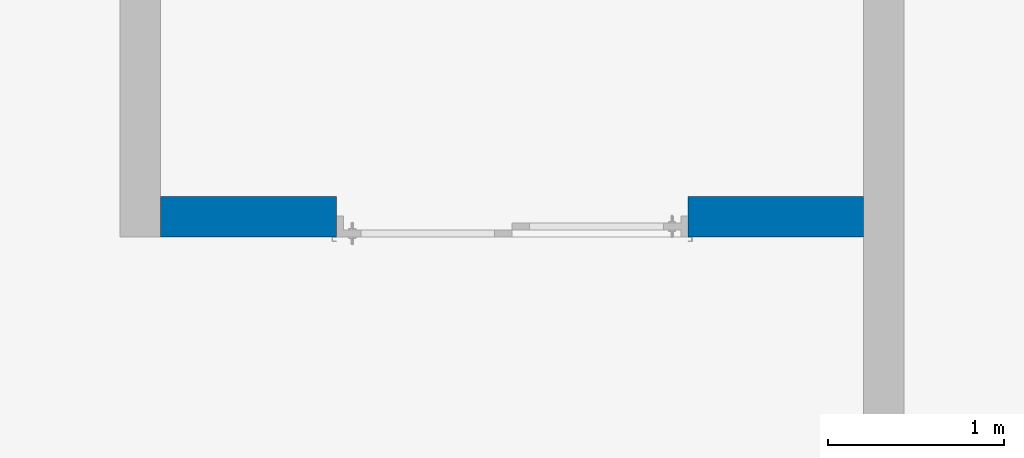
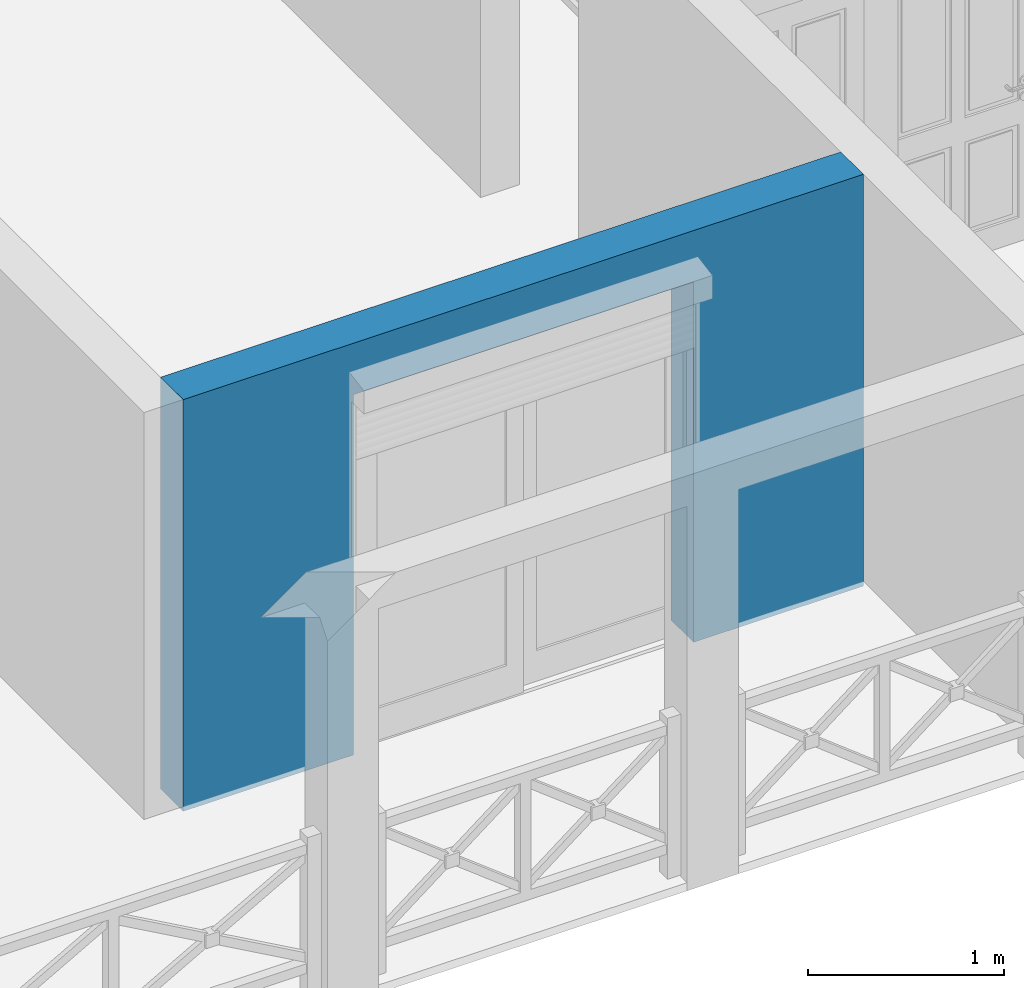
# One storey, part 8 of 17: 1 wall, 1 opening.
"""IFC2X3 building model written with IfcOpenShell, lengths in metres."""

from ifc_helpers import new_model, entity, si_unit, converted_unit, derived_unit, money_unit, direction, frame, origin_with_axes, origin_2d_with_axis, place, context, subcontext, project, spatial, polyline, rectangle, outline, extrude, boolean, faceted_brep, material, type_object, element, save


model = new_model("IFC2X3")

# Units and contexts
model_context = context("Model", 3, precision=1e-05, world=origin_with_axes(), true_north=direction((0.0, 1.0)))
body_context = subcontext(model_context, "Body", "Model", "MODEL_VIEW")
ifc_project = project(units=[si_unit("LENGTHUNIT", "METRE"), si_unit("AREAUNIT", "SQUARE_METRE"), si_unit("VOLUMEUNIT", "CUBIC_METRE"), converted_unit("PLANEANGLEUNIT", "DEGREE", entity("IfcPlaneAngleMeasure", 0.0174532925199), si_unit("PLANEANGLEUNIT", "RADIAN"), dimensions=[0, 0, 0, 0, 0, 0, 0]), si_unit("SOLIDANGLEUNIT", "STERADIAN"), money_unit("CHF"), converted_unit("TIMEUNIT", "Year", entity("IfcTimeMeasure", 31556926.0), si_unit("TIMEUNIT", "SECOND"), dimensions=[0, 0, 1, 0, 0, 0, 0]), si_unit("MASSUNIT", "GRAM", prefix="KILO"), si_unit("THERMODYNAMICTEMPERATUREUNIT", "DEGREE_CELSIUS"), si_unit("LUMINOUSINTENSITYUNIT", "LUMEN"), si_unit("ENERGYUNIT", "JOULE", prefix="MEGA"), derived_unit("THERMALCONDUCTANCEUNIT", [(si_unit("POWERUNIT", "WATT"), 1), (si_unit("LENGTHUNIT", "METRE"), -1), (si_unit("THERMODYNAMICTEMPERATUREUNIT", "KELVIN"), -1)]), derived_unit("SPECIFICHEATCAPACITYUNIT", [(si_unit("ENERGYUNIT", "JOULE"), 1), (si_unit("MASSUNIT", "GRAM", prefix="KILO"), -1), (si_unit("THERMODYNAMICTEMPERATUREUNIT", "KELVIN"), -1)]), derived_unit("MASSDENSITYUNIT", [(si_unit("MASSUNIT", "GRAM", prefix="KILO"), 1), (si_unit("VOLUMEUNIT", "CUBIC_METRE"), -1)])], contexts=[model_context])

# Site, building, storey
site_placement = place(None, origin_with_axes())
site = spatial("IfcSite", under=ifc_project, at=site_placement, Name="Site", CompositionType="ELEMENT")
building_placement = place(site_placement, origin_with_axes())
building = spatial("IfcBuilding", under=site, at=building_placement, Name="Bâtiment", CompositionType="ELEMENT")
storey_placement = place(building_placement, frame((0.0, 0.0, 3.0), z_axis=(0.0, 0.0, 1.0), x_axis=(1.0, 0.0, 0.0)))
storey = spatial("IfcBuildingStorey", under=building, at=storey_placement, Name="RDJ", CompositionType="ELEMENT", Elevation=3.0)

# Wall, opening
ifc_material = material(Name="Hachure solide 2628782308")
wall_type = type_object("IfcWallType", Name="Hachure solide 2628782308 230", PredefinedType="NOTDEFINED")
wall_placement = place(storey_placement, frame((87.7435190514, 9.04926660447, -3.05), z_axis=(0.0, 0.0, 1.0), x_axis=(1.0, 0.0, 0.0)))
wall = element("IfcWall", 1, at=wall_placement, inside=storey, type_object=wall_type, material=ifc_material, Name="MurExt-012", context=body_context, shape_type="CSG", body=[
    boolean("DIFFERENCE", boolean("DIFFERENCE", boolean("DIFFERENCE", extrude(outline(polyline([(-0.23, 0.0), (4.23, 0.0), (4.23, 0.23), (-0.23, 0.23), (-0.23, 0.0)])), origin_with_axes(), (0.0, 0.0, 1.0), 2.56), faceted_brep([(0.0, 0.0, 2.56), (0.0, 0.23, 2.56), (-0.23, 0.23, 2.56), (-0.23, 0.0, 2.56), (0.0, 0.23, 0.0), (0.0, 0.0, 0.0), (-0.23, 0.23, 0.0), (-0.23, 0.0, 0.0)], [[[0, 1, 2, 3]], [[4, 1, 0, 5]], [[1, 4, 6, 2]], [[2, 6, 7, 3]], [[5, 0, 3, 7]], [[4, 5, 7, 6]]])), faceted_brep([(1.00088248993, 0.23, 0.0), (1.00088248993, 0.23, 0.05), (3.00088258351, 0.23, 0.05), (3.00088258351, 0.23, 0.0), (1.00088248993, 6.57346319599e-08, 0.0), (1.00088248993, 6.57346319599e-08, 0.05), (3.00088258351, 6.57346319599e-08, 0.05), (3.00088258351, 6.57346319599e-08, 0.0)], [[[0, 1, 2, 3]], [[1, 0, 4, 5]], [[2, 1, 5, 6]], [[3, 2, 6, 7]], [[4, 0, 3, 7]], [[5, 4, 7, 6]]])), faceted_brep([(4.0, 0.23, 0.0), (4.0, 0.23, 2.56), (4.23, 0.23, 2.56), (4.23, 0.23, 0.0), (4.0, 0.0, 2.56), (4.0, 0.0, 0.0), (4.23, 0.0, 2.56), (4.23, 0.0, 0.0)], [[[0, 1, 2, 3]], [[4, 1, 0, 5]], [[1, 4, 6, 2]], [[6, 7, 3, 2]], [[5, 0, 3, 7]], [[4, 5, 7, 6]]])),
])
opening_placement = place(wall_placement, frame((2.00088256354, 0.0, 0.04), z_axis=(0.0, 0.0, 1.0), x_axis=(1.0, 0.0, 0.0)))
element("IfcOpeningElement", 2, at=opening_placement, cuts=wall, Name="Por-023", context=body_context, shape_type="SweptSolid", body=[
    extrude(rectangle(XDim=2.0, YDim=2.2, at=origin_2d_with_axis()), frame((0.0, 0.23, 1.1), z_axis=(0.0, -1.0, 0.0), x_axis=(-1.0, 0.0, 0.0)), (0.0, 0.0, 1.0), 0.69),
])

save(model, "model.ifc")
